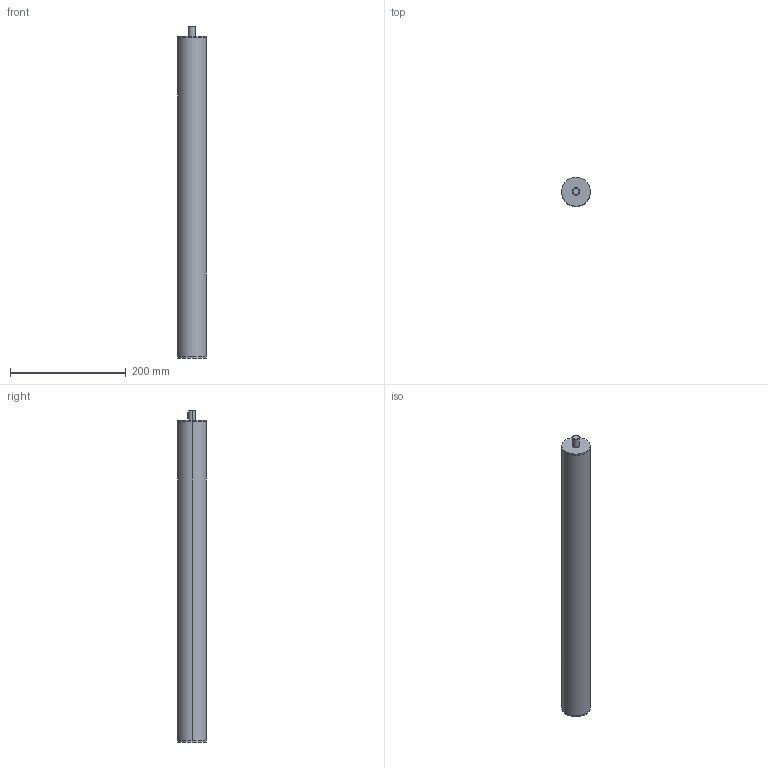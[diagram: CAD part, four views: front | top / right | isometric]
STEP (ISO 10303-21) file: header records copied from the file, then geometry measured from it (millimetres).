
FILE_DESCRIPTION (( 'STEP AP214' ), '1' );
FILE_NAME ('291-50-315-R1-SCR.step', '2023-08-30T05:21:52', ( '' ), ( '' ), 'SwSTEP 2.0', 'SolidWorks 2022', '' );
FILE_SCHEMA (( 'AUTOMOTIVE_DESIGN' ));
Length unit declared in the file: millimetre
Products named in the file (3): 291-50-315-R1-SCR; WB2910 mutter^WBVES_Tr20-M6; WB2910 Rund^WBVES_50-315-1
Assembly tree (2 placements, depth 2):
  291-50-315-R1-SCR
    WB2910 mutter^WBVES_Tr20-M6
    WB2910 Rund^WBVES_50-315-1
Bounding box: 50 x 50 x 573 mm (x, y, z)
Volume: 410453 mm3; surface area: 218037 mm2
Topology: 2 solids, 2 shells, 48 faces, 112 edges, 70 vertices
Faces by surface type: cylinder 25, plane 17, cone 6
Entity records: 1847 total; most frequent: CARTESIAN_POINT 426, DIRECTION 246, ORIENTED_EDGE 216, EDGE_CURVE 108, AXIS2_PLACEMENT_3D 96, VERTEX_POINT 70, EDGE_LOOP 58, VECTOR 54
